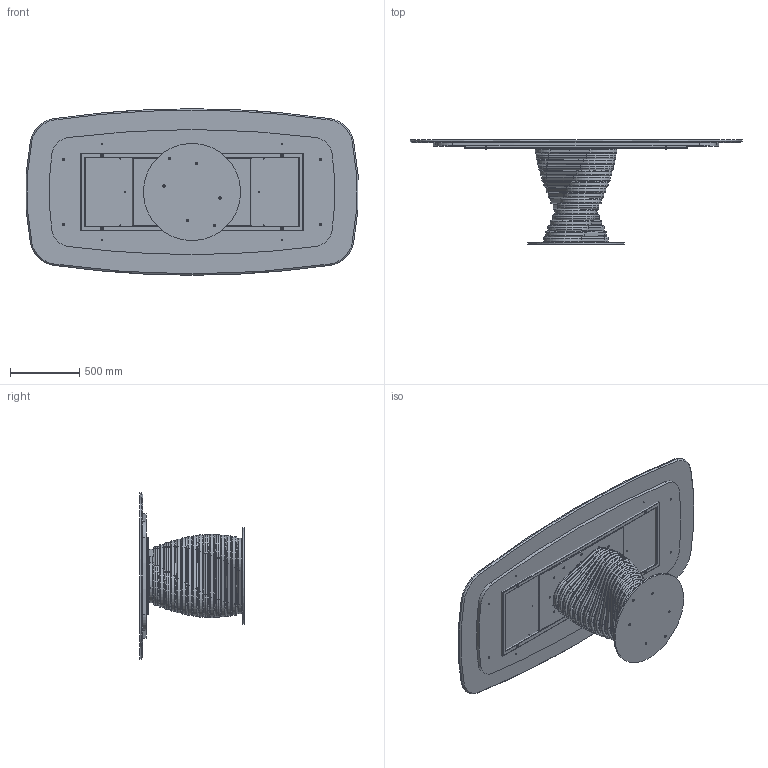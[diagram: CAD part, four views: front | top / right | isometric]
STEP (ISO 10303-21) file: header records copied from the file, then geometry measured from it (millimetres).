
FILE_DESCRIPTION (( 'STEP AP203' ), '1' );
FILE_NAME ('RO43M.STEP', '2024-08-07T13:34:11', ( '' ), ( '' ), 'SwSTEP 2.0', 'SolidWorks 2022', '' );
FILE_SCHEMA (( 'CONFIG_CONTROL_DESIGN' ));
Length unit declared in the file: millimetre
Products named in the file (17): TTAV01-05-TELAIO UNIVERSALE X TAVOLI 180 240cm; TTAV01_01-05-TELAIO UNIVERSALE X TAVOLI 180 240cm; rondella M8_8X24; M8xXXmm_hex_M8X20mm; TTAV01_02-05-VASSOIO IRRIGIDIMENTO TELAIO UNIVERSALE; M8xXXmm_M8x55mm; ROBX00000MED-00-Anello rotolo MEDIO_Default<A macchina>; ROBX00000-00-ROTOLO BASE 17 ANELLI; COLLO TELAIO UNIVERSALE TTAV01 CON FERRAMENTA_MTG TOP LEGNO-MARMO-KING; TRUXXXXXX-00-NOBILITATO GR CON SUPP TRUCIOLARE SP. 25_TRU00007_2100x900; ROBX00000INF-00-Anello rotolo INFERIORE_Default<A macchina>; M4XMXX-00-Piani Sagomati in marmo_2400x1200; M4X-00-Piani Sagomati in marmo_2400 x 1200; ROB200000-00-PIASTRA BASE_Ø70cm; M8xXXmm_M8x20mm; RO43M; ROBX00000SUP-00-Anello rotolo SUPERIORE_Default<A macchina>
Assembly tree (48 placements, depth 4):
  RO43M
    ROB200000-00-PIASTRA BASE_Ø70cm
    ROBX00000-00-ROTOLO BASE 17 ANELLI
      ROBX00000INF-00-Anello rotolo INFERIORE_Default<A macchina>
      ROBX00000MED-00-Anello rotolo MEDIO_Default<A macchina>  x15
      ROBX00000SUP-00-Anello rotolo SUPERIORE_Default<A macchina>
    M8xXXmm_hex_M8X20mm  x6
    COLLO TELAIO UNIVERSALE TTAV01 CON FERRAMENTA_MTG TOP LEGNO-MARMO-KING
      TTAV01-05-TELAIO UNIVERSALE X TAVOLI 180 240cm
        TTAV01_02-05-VASSOIO IRRIGIDIMENTO TELAIO UNIVERSALE
        TTAV01_01-05-TELAIO UNIVERSALE X TAVOLI 180 240cm
      rondella M8_8X24  x4
      M8xXXmm_M8x55mm  x4
    rondella M8_8X24  x4
    M8xXXmm_M8x20mm  x4
    M4XMXX-00-Piani Sagomati in marmo_2400x1200
      M4X-00-Piani Sagomati in marmo_2400 x 1200
      TRUXXXXXX-00-NOBILITATO GR CON SUPP TRUCIOLARE SP. 25_TRU00007_2100x900
Bounding box: 2391.9 x 752 x 1200 mm (x, y, z)
Volume: 108982791 mm3; surface area: 16834710.1 mm2
Topology: 95 solids, 95 shells, 1725 faces, 4107 edges, 2523 vertices
Faces by surface type: plane 656, cylinder 618, torus 244, cone 199, sphere 8
Entity records: 24702 total; most frequent: CARTESIAN_POINT 5373, DIRECTION 3665, ORIENTED_EDGE 3318, EDGE_CURVE 1659, AXIS2_PLACEMENT_3D 1398, VERTEX_POINT 1044, VECTOR 869, LINE 869
